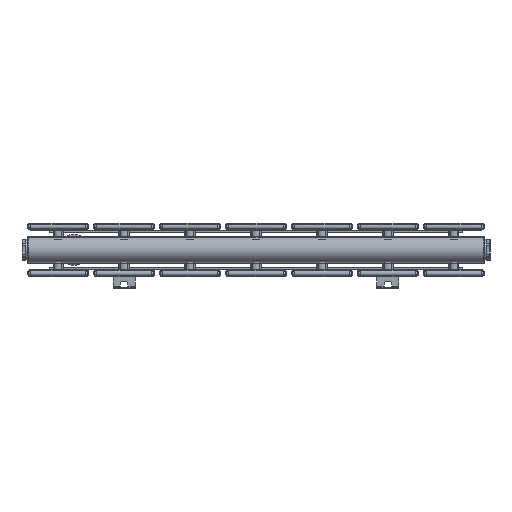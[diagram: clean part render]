
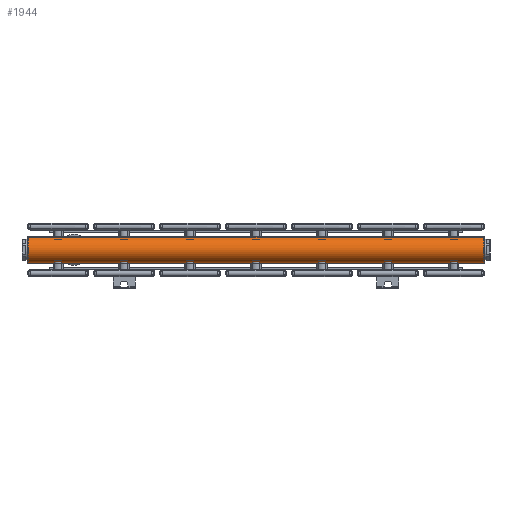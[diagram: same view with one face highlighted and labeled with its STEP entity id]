
A CAD part, left-side view. The second image highlights one B-rep face of the part: STEP entity #1944.
In plain terms, the highlighted cylindrical face has radius 15 mm (diameter 30 mm), a full revolution.
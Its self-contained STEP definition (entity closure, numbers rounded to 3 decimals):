
#650=FACE_BOUND('',#873,.T.);
#745=FACE_OUTER_BOUND('',#872,.T.);
#872=EDGE_LOOP('',(#1728));
#873=EDGE_LOOP('',(#1729));
#976=CIRCLE('',#2185,15.);
#977=CIRCLE('',#2187,15.);
#1114=VERTEX_POINT('',#3710);
#1115=VERTEX_POINT('',#3713);
#1328=EDGE_CURVE('',#1114,#1114,#976,.T.);
#1329=EDGE_CURVE('',#1115,#1115,#977,.T.);
#1728=ORIENTED_EDGE('',*,*,#1328,.F.);
#1729=ORIENTED_EDGE('',*,*,#1329,.F.);
#1859=CYLINDRICAL_SURFACE('',#2188,15.);
#1944=ADVANCED_FACE('',(#745,#650),#1859,.T.);
#2185=AXIS2_PLACEMENT_3D('',#3711,#2694,#2695);
#2187=AXIS2_PLACEMENT_3D('',#3714,#2698,#2699);
#2188=AXIS2_PLACEMENT_3D('',#3715,#2700,#2701);
#2694=DIRECTION('center_axis',(0.,0.,1.));
#2695=DIRECTION('ref_axis',(-1.,0.,0.));
#2698=DIRECTION('center_axis',(0.,0.,-1.));
#2699=DIRECTION('ref_axis',(-1.,0.,0.));
#2700=DIRECTION('center_axis',(0.,0.,1.));
#2701=DIRECTION('ref_axis',(-1.,0.,0.));
#3710=CARTESIAN_POINT('',(15.,-15.,520.));
#3711=CARTESIAN_POINT('Origin',(0.,-15.,520.));
#3713=CARTESIAN_POINT('',(15.,-15.,0.));
#3714=CARTESIAN_POINT('Origin',(0.,-15.,0.));
#3715=CARTESIAN_POINT('Origin',(0.,-15.,0.));
